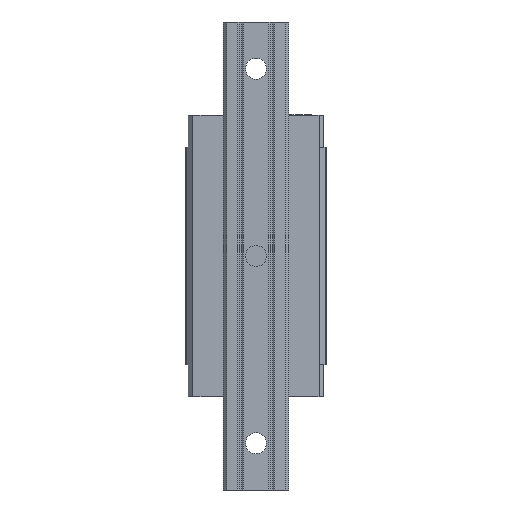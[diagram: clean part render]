
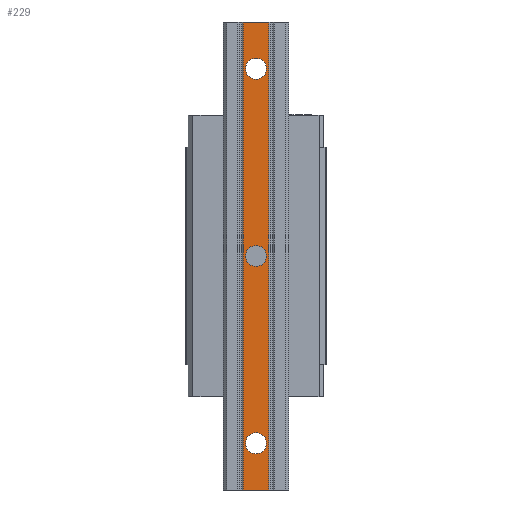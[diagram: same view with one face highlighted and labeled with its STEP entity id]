
A CAD part, front view. The second image highlights one B-rep face of the part: STEP entity #229.
In plain terms, the highlighted planar face has unit normal (0, -1, 0).
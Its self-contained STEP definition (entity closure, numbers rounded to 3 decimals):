
#110=FACE_BOUND('',#956,.T.);
#111=FACE_BOUND('',#957,.T.);
#112=FACE_BOUND('',#958,.T.);
#113=FACE_BOUND('',#959,.T.);
#229=ADVANCED_FACE('',(#110,#111,#112,#113),#487,.T.);
#487=PLANE('',#5370);
#956=EDGE_LOOP('',(#2610,#2611,#2612,#2613));
#957=EDGE_LOOP('',(#2614));
#958=EDGE_LOOP('',(#2615));
#959=EDGE_LOOP('',(#2616));
#1239=LINE('',#7094,#1865);
#1288=LINE('',#7236,#1914);
#1289=LINE('',#7238,#1915);
#1290=LINE('',#7240,#1916);
#1865=VECTOR('',#5715,1.);
#1914=VECTOR('',#5848,1.);
#1915=VECTOR('',#5851,1.);
#1916=VECTOR('',#5852,1.);
#2610=ORIENTED_EDGE('',*,*,#4558,.T.);
#2611=ORIENTED_EDGE('',*,*,#4559,.F.);
#2612=ORIENTED_EDGE('',*,*,#4560,.F.);
#2613=ORIENTED_EDGE('',*,*,#4487,.T.);
#2614=ORIENTED_EDGE('',*,*,#4561,.F.);
#2615=ORIENTED_EDGE('',*,*,#4562,.F.);
#2616=ORIENTED_EDGE('',*,*,#4563,.F.);
#3985=VERTEX_POINT('',#7093);
#3986=VERTEX_POINT('',#7095);
#4036=VERTEX_POINT('',#7235);
#4037=VERTEX_POINT('',#7239);
#4038=VERTEX_POINT('',#7242);
#4039=VERTEX_POINT('',#7244);
#4040=VERTEX_POINT('',#7246);
#4487=EDGE_CURVE('',#3986,#3985,#1239,.T.);
#4558=EDGE_CURVE('',#3985,#4036,#1288,.T.);
#4559=EDGE_CURVE('',#4037,#4036,#1289,.T.);
#4560=EDGE_CURVE('',#3986,#4037,#1290,.T.);
#4561=EDGE_CURVE('',#4038,#4038,#5241,.T.);
#4562=EDGE_CURVE('',#4039,#4039,#5242,.T.);
#4563=EDGE_CURVE('',#4040,#4040,#5243,.T.);
#5241=CIRCLE('',#5367,4.5);
#5242=CIRCLE('',#5368,4.5);
#5243=CIRCLE('',#5369,4.5);
#5367=AXIS2_PLACEMENT_3D('',#7241,#5853,#5854);
#5368=AXIS2_PLACEMENT_3D('',#7243,#5855,#5856);
#5369=AXIS2_PLACEMENT_3D('',#7245,#5857,#5858);
#5370=AXIS2_PLACEMENT_3D('',#7247,#5859,#5860);
#5715=DIRECTION('',(1.,0.,0.));
#5848=DIRECTION('',(0.,0.,1.));
#5851=DIRECTION('',(1.,0.,0.));
#5852=DIRECTION('',(0.,0.,1.));
#5853=DIRECTION('',(0.,-1.,0.));
#5854=DIRECTION('',(-1.,0.,0.));
#5855=DIRECTION('',(0.,-1.,0.));
#5856=DIRECTION('',(-1.,0.,0.));
#5857=DIRECTION('',(0.,-1.,0.));
#5858=DIRECTION('',(-1.,0.,0.));
#5859=DIRECTION('',(0.,-1.,0.));
#5860=DIRECTION('',(-1.,0.,0.));
#7093=CARTESIAN_POINT('',(5.55,-26.,-100.));
#7094=CARTESIAN_POINT('',(-5.55,-26.,-100.));
#7095=CARTESIAN_POINT('',(-5.55,-26.,-100.));
#7235=CARTESIAN_POINT('',(5.55,-26.,100.));
#7236=CARTESIAN_POINT('',(5.55,-26.,-100.));
#7238=CARTESIAN_POINT('',(-5.55,-26.,100.));
#7239=CARTESIAN_POINT('',(-5.55,-26.,100.));
#7240=CARTESIAN_POINT('',(-5.55,-26.,-100.));
#7241=CARTESIAN_POINT('',(0.,-26.,0.));
#7242=CARTESIAN_POINT('',(-4.5,-26.,0.));
#7243=CARTESIAN_POINT('',(0.,-26.,80.));
#7244=CARTESIAN_POINT('',(-4.5,-26.,80.));
#7245=CARTESIAN_POINT('',(0.,-26.,-80.));
#7246=CARTESIAN_POINT('',(-4.5,-26.,-80.));
#7247=CARTESIAN_POINT('',(-6.105,-26.,-110.));
